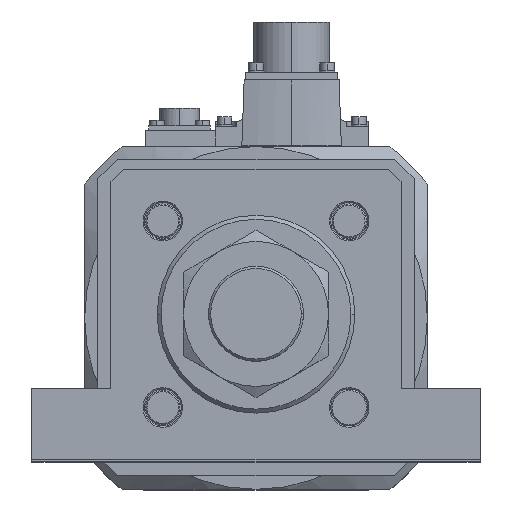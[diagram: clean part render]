
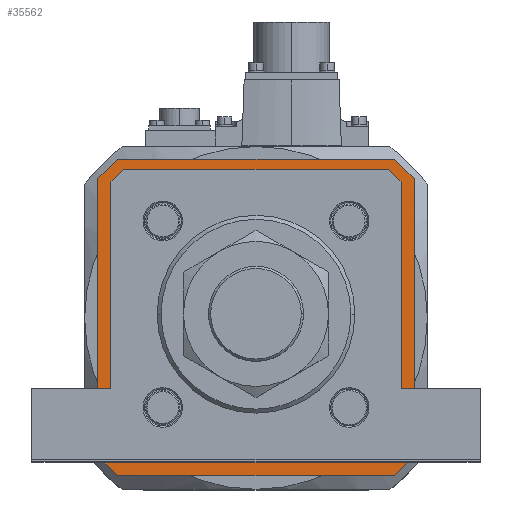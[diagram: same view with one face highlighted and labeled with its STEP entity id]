
A CAD part, top view. The second image highlights one B-rep face of the part: STEP entity #35562.
In plain terms, the highlighted planar face has unit normal (0, 0, 1) as drawn and (0, 0, -1) by its records, which use the part's own axes.
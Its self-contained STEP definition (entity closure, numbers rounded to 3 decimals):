
#32 = DIRECTION ( 'NONE',  ( 1., 0., 0. ) ) ;
#86 = CARTESIAN_POINT ( 'NONE',  ( 51.546, -51.546, 52. ) ) ;
#343 = DIRECTION ( 'NONE',  ( 0., -1., 0. ) ) ;
#475 = CARTESIAN_POINT ( 'NONE',  ( 51.546, 51.546, 52. ) ) ;
#664 = CARTESIAN_POINT ( 'NONE',  ( 53.5, -49.593, 52. ) ) ;
#909 = VERTEX_POINT ( 'NONE', #10514 ) ;
#1815 = EDGE_CURVE ( 'NONE', #9410, #2902, #3233, .T. ) ;
#2072 = EDGE_LOOP ( 'NONE', ( #30549, #16666, #27958, #7876, #25920, #15247, #25323, #23855 ) ) ;
#2880 = CARTESIAN_POINT ( 'NONE',  ( 49.8, -53.5, 52. ) ) ;
#2902 = VERTEX_POINT ( 'NONE', #9520 ) ;
#2969 = CARTESIAN_POINT ( 'NONE',  ( 53.5, 49.593, 52. ) ) ;
#3081 = VERTEX_POINT ( 'NONE', #36419 ) ;
#3233 = LINE ( 'NONE', #24849, #15678 ) ;
#3359 = VECTOR ( 'NONE', #32, 1000. ) ;
#3789 = EDGE_CURVE ( 'NONE', #9410, #28044, #31206, .T. ) ;
#4167 = EDGE_CURVE ( 'NONE', #23911, #37867, #33948, .T. ) ;
#4802 = DIRECTION ( 'NONE',  ( 0.707, 0.707, 0. ) ) ;
#4863 = ORIENTED_EDGE ( 'NONE', *, *, #36253, .F. ) ;
#5913 = PLANE ( 'NONE',  #20646 ) ;
#5983 = DIRECTION ( 'NONE',  ( 0.707, 0.707, 0. ) ) ;
#6111 = LINE ( 'NONE', #35707, #17196 ) ;
#6518 = EDGE_CURVE ( 'NONE', #14428, #10780, #7946, .T. ) ;
#6539 = ORIENTED_EDGE ( 'NONE', *, *, #13639, .T. ) ;
#7544 = VERTEX_POINT ( 'NONE', #664 ) ;
#7598 = VERTEX_POINT ( 'NONE', #21191 ) ;
#7697 = CARTESIAN_POINT ( 'NONE',  ( -52.5, 60., 52. ) ) ;
#7767 = EDGE_CURVE ( 'NONE', #35470, #909, #12992, .T. ) ;
#7768 = VECTOR ( 'NONE', #9601, 1000. ) ;
#7876 = ORIENTED_EDGE ( 'NONE', *, *, #22472, .T. ) ;
#7946 = LINE ( 'NONE', #475, #21417 ) ;
#8316 = EDGE_LOOP ( 'NONE', ( #29760, #32522, #4863, #6539, #31679, #25205, #33650, #20401 ) ) ;
#8489 = CARTESIAN_POINT ( 'NONE',  ( 52.5, 60., 52. ) ) ;
#8510 = EDGE_CURVE ( 'NONE', #37792, #30626, #13833, .T. ) ;
#8665 = CARTESIAN_POINT ( 'NONE',  ( -60., 52.5, 52. ) ) ;
#8765 = VECTOR ( 'NONE', #28605, 1000. ) ;
#9410 = VERTEX_POINT ( 'NONE', #32639 ) ;
#9438 = CARTESIAN_POINT ( 'NONE',  ( -60., -52.5, 52. ) ) ;
#9520 = CARTESIAN_POINT ( 'NONE',  ( 52.5, -60., 52. ) ) ;
#9601 = DIRECTION ( 'NONE',  ( 0., -1., 0. ) ) ;
#9884 = LINE ( 'NONE', #86, #29260 ) ;
#10271 = LINE ( 'NONE', #18922, #21415 ) ;
#10326 = VECTOR ( 'NONE', #29502, 1000. ) ;
#10514 = CARTESIAN_POINT ( 'NONE',  ( -49.593, -53.5, 52. ) ) ;
#10776 = LINE ( 'NONE', #8489, #10326 ) ;
#10780 = VERTEX_POINT ( 'NONE', #34016 ) ;
#11094 = CARTESIAN_POINT ( 'NONE',  ( -49.593, 53.5, 52. ) ) ;
#11159 = LINE ( 'NONE', #2880, #3359 ) ;
#11739 = DIRECTION ( 'NONE',  ( 1., 0., 0. ) ) ;
#11840 = CARTESIAN_POINT ( 'NONE',  ( 0., 0., 52. ) ) ;
#11922 = VERTEX_POINT ( 'NONE', #8665 ) ;
#11969 = DIRECTION ( 'NONE',  ( 0., 0., 1. ) ) ;
#12223 = DIRECTION ( 'NONE',  ( 1., 0., 0. ) ) ;
#12992 = LINE ( 'NONE', #34206, #24124 ) ;
#13030 = EDGE_CURVE ( 'NONE', #3081, #7544, #9884, .T. ) ;
#13211 = CARTESIAN_POINT ( 'NONE',  ( -51.546, 51.546, 52. ) ) ;
#13560 = CARTESIAN_POINT ( 'NONE',  ( -49.8, 53.5, 52. ) ) ;
#13639 = EDGE_CURVE ( 'NONE', #11922, #37867, #10271, .T. ) ;
#13653 = EDGE_CURVE ( 'NONE', #10780, #22831, #21907, .T. ) ;
#13833 = LINE ( 'NONE', #37325, #8765 ) ;
#14428 = VERTEX_POINT ( 'NONE', #2969 ) ;
#15247 = ORIENTED_EDGE ( 'NONE', *, *, #33399, .T. ) ;
#15384 = LINE ( 'NONE', #13211, #37475 ) ;
#15678 = VECTOR ( 'NONE', #30466, 1000. ) ;
#16110 = CARTESIAN_POINT ( 'NONE',  ( -60., 60., 52. ) ) ;
#16162 = DIRECTION ( 'NONE',  ( 0., 1., 0. ) ) ;
#16666 = ORIENTED_EDGE ( 'NONE', *, *, #13653, .T. ) ;
#16735 = DIRECTION ( 'NONE',  ( 0.707, -0.707, 0. ) ) ;
#17196 = VECTOR ( 'NONE', #343, 1000. ) ;
#17498 = EDGE_CURVE ( 'NONE', #7544, #14428, #27398, .T. ) ;
#17949 = LINE ( 'NONE', #30751, #7768 ) ;
#18922 = CARTESIAN_POINT ( 'NONE',  ( -60., 52.5, 52. ) ) ;
#19659 = VECTOR ( 'NONE', #11739, 1000. ) ;
#19666 = CARTESIAN_POINT ( 'NONE',  ( 60., 52.5, 52. ) ) ;
#20360 = CARTESIAN_POINT ( 'NONE',  ( 52.5, 60., 52. ) ) ;
#20401 = ORIENTED_EDGE ( 'NONE', *, *, #1815, .T. ) ;
#20646 = AXIS2_PLACEMENT_3D ( 'NONE', #11840, #11969, #12223 ) ;
#21191 = CARTESIAN_POINT ( 'NONE',  ( -53.5, 49.593, 52. ) ) ;
#21415 = VECTOR ( 'NONE', #4802, 1000. ) ;
#21417 = VECTOR ( 'NONE', #35584, 1000. ) ;
#21556 = EDGE_CURVE ( 'NONE', #37792, #2902, #36162, .T. ) ;
#21743 = EDGE_CURVE ( 'NONE', #23911, #28044, #10776, .T. ) ;
#21907 = LINE ( 'NONE', #13560, #32859 ) ;
#22472 = EDGE_CURVE ( 'NONE', #7598, #35470, #6111, .T. ) ;
#22572 = DIRECTION ( 'NONE',  ( -0.707, -0.707, 0. ) ) ;
#22831 = VERTEX_POINT ( 'NONE', #11094 ) ;
#23555 = CARTESIAN_POINT ( 'NONE',  ( -60., -60., 52. ) ) ;
#23855 = ORIENTED_EDGE ( 'NONE', *, *, #17498, .T. ) ;
#23911 = VERTEX_POINT ( 'NONE', #20360 ) ;
#24124 = VECTOR ( 'NONE', #16735, 1000. ) ;
#24156 = CARTESIAN_POINT ( 'NONE',  ( -53.5, -49.593, 52. ) ) ;
#24849 = CARTESIAN_POINT ( 'NONE',  ( 60., -52.5, 52. ) ) ;
#25205 = ORIENTED_EDGE ( 'NONE', *, *, #21743, .T. ) ;
#25323 = ORIENTED_EDGE ( 'NONE', *, *, #13030, .T. ) ;
#25492 = DIRECTION ( 'NONE',  ( -1., 0., 0. ) ) ;
#25700 = CARTESIAN_POINT ( 'NONE',  ( -52.5, -60., 52. ) ) ;
#25920 = ORIENTED_EDGE ( 'NONE', *, *, #7767, .T. ) ;
#27398 = LINE ( 'NONE', #27927, #31067 ) ;
#27927 = CARTESIAN_POINT ( 'NONE',  ( 53.5, 49.8, 52. ) ) ;
#27958 = ORIENTED_EDGE ( 'NONE', *, *, #32711, .T. ) ;
#28044 = VERTEX_POINT ( 'NONE', #19666 ) ;
#28247 = DIRECTION ( 'NONE',  ( -1., 0., 0. ) ) ;
#28418 = CARTESIAN_POINT ( 'NONE',  ( 60., 60., 52. ) ) ;
#28605 = DIRECTION ( 'NONE',  ( -0.707, 0.707, 0. ) ) ;
#29260 = VECTOR ( 'NONE', #5983, 1000. ) ;
#29502 = DIRECTION ( 'NONE',  ( 0.707, -0.707, 0. ) ) ;
#29760 = ORIENTED_EDGE ( 'NONE', *, *, #21556, .F. ) ;
#29853 = VECTOR ( 'NONE', #28247, 1000. ) ;
#30466 = DIRECTION ( 'NONE',  ( -0.707, -0.707, 0. ) ) ;
#30549 = ORIENTED_EDGE ( 'NONE', *, *, #6518, .T. ) ;
#30626 = VERTEX_POINT ( 'NONE', #9438 ) ;
#30751 = CARTESIAN_POINT ( 'NONE',  ( -60., 60., 52. ) ) ;
#31067 = VECTOR ( 'NONE', #16162, 1000. ) ;
#31206 = LINE ( 'NONE', #28418, #37159 ) ;
#31619 = DIRECTION ( 'NONE',  ( 0., 1., 0. ) ) ;
#31679 = ORIENTED_EDGE ( 'NONE', *, *, #4167, .F. ) ;
#32522 = ORIENTED_EDGE ( 'NONE', *, *, #8510, .T. ) ;
#32639 = CARTESIAN_POINT ( 'NONE',  ( 60., -52.5, 52. ) ) ;
#32711 = EDGE_CURVE ( 'NONE', #22831, #7598, #15384, .T. ) ;
#32859 = VECTOR ( 'NONE', #25492, 1000. ) ;
#33399 = EDGE_CURVE ( 'NONE', #909, #3081, #11159, .T. ) ;
#33650 = ORIENTED_EDGE ( 'NONE', *, *, #3789, .F. ) ;
#33948 = LINE ( 'NONE', #16110, #29853 ) ;
#34016 = CARTESIAN_POINT ( 'NONE',  ( 49.593, 53.5, 52. ) ) ;
#34069 = FACE_BOUND ( 'NONE', #2072, .T. ) ;
#34206 = CARTESIAN_POINT ( 'NONE',  ( -51.546, -51.546, 52. ) ) ;
#35470 = VERTEX_POINT ( 'NONE', #24156 ) ;
#35562 = ADVANCED_FACE ( 'NONE', ( #34069, #35922 ), #5913, .F. ) ;
#35584 = DIRECTION ( 'NONE',  ( -0.707, 0.707, 0. ) ) ;
#35707 = CARTESIAN_POINT ( 'NONE',  ( -53.5, -49.8, 52. ) ) ;
#35922 = FACE_OUTER_BOUND ( 'NONE', #8316, .T. ) ;
#36162 = LINE ( 'NONE', #23555, #19659 ) ;
#36253 = EDGE_CURVE ( 'NONE', #11922, #30626, #17949, .T. ) ;
#36419 = CARTESIAN_POINT ( 'NONE',  ( 49.593, -53.5, 52. ) ) ;
#37159 = VECTOR ( 'NONE', #31619, 1000. ) ;
#37325 = CARTESIAN_POINT ( 'NONE',  ( -52.5, -60., 52. ) ) ;
#37475 = VECTOR ( 'NONE', #22572, 1000. ) ;
#37792 = VERTEX_POINT ( 'NONE', #25700 ) ;
#37867 = VERTEX_POINT ( 'NONE', #7697 ) ;
